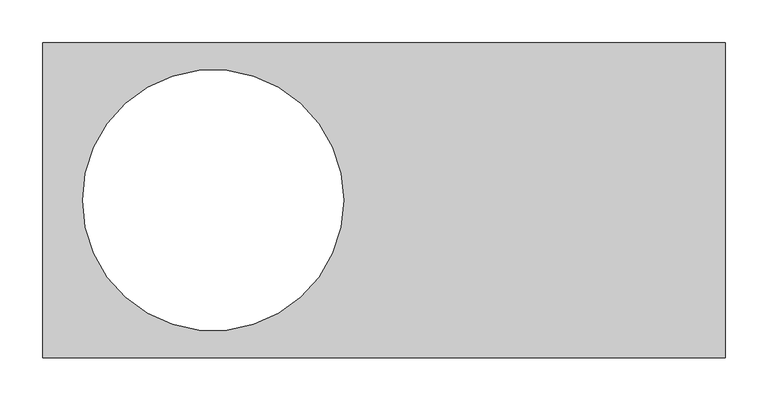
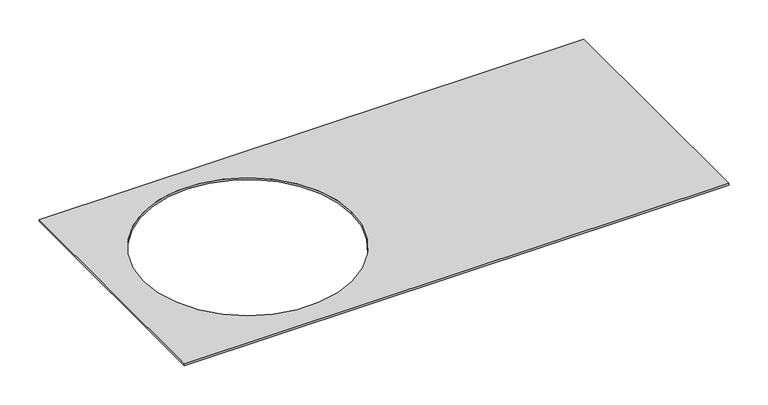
"""IFC4 building model written with IfcOpenShell, lengths in millimetres: proxy geometry, Electrical_Installation_Hager_Cover-R12-BKA : Electrical_Installation_Hager_Cover-R12-BKA."""

from ifc_helpers import new_model, si_unit, point, frame, frame_2d, origin, place, context, project, spatial, polyline, circle_curve, trimmed, segment, composite_curve, outline, extrude, source, transform, mapped, element, save


def electrical_fixtures_3bb7a620(model_context):
    return source(origin(), model_context, "Body", "SweptSolid", [
        extrude(outline(polyline([(800.0, 184.75), (800.0, -184.75), (0.0, -184.75), (0.0, 184.75), (800.0, 184.75)]), holes=[composite_curve([segment(trimmed(circle_curve(frame_2d((199.7148726, 0.0)), 153.0), [point((46.7148726, 0.0))], [point((352.7148726, 0.0))], True, "CARTESIAN"), True, "CONTINUOUS"), segment(trimmed(circle_curve(frame_2d((199.7148726, 0.0)), 153.0), [point((352.7148726, 0.0))], [point((46.7148726, 0.0))], True, "CARTESIAN"), True, "CONTINUOUS")], self_intersect=False)]), frame((0.0, 0.0, 10.0), z_axis=(0.0, 0.0, 1.0), x_axis=(1.0, 0.0, 0.0)), (0.0, 0.0, 1.0), 3.0),
    ])


if __name__ == "__main__":
    model = new_model("IFC4")
    model_context = context("Model", 3, world=origin())
    ifc_project = project(units=[si_unit("LENGTHUNIT", "METRE", prefix="MILLI")], contexts=[model_context])
    site = spatial("IfcSite", under=ifc_project)
    building = spatial("IfcBuilding", under=site)
    placement = place(None, origin())
    electrical_fixtures_shape = electrical_fixtures_3bb7a620(model_context)
    element("IfcBuildingElementProxy", 1, Name="Electrical_Installation_Hager_Cover-R12-BKA : Electrical_Installation_Hager_Cover-R12-BKA", ObjectType="Electrical_Installation_Hager_Cover-R12-BKA : Electrical_Installation_Hager_Cover-R12-BKA", at=placement, inside=building, context=model_context, shape_type="MappedRepresentation", body=[
        mapped(electrical_fixtures_shape, transform((0.0, 0.0, 0.0), x_axis=(1.0, 0.0, 0.0), y_axis=(0.0, 1.0, 0.0), z_axis=(0.0, 0.0, 1.0))),
    ])
    save(model, "model.ifc")
